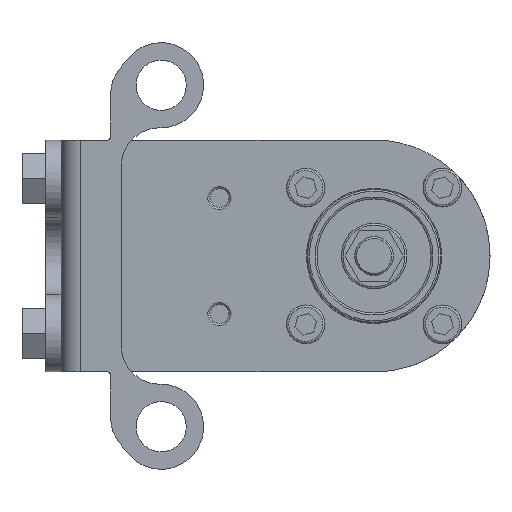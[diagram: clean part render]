
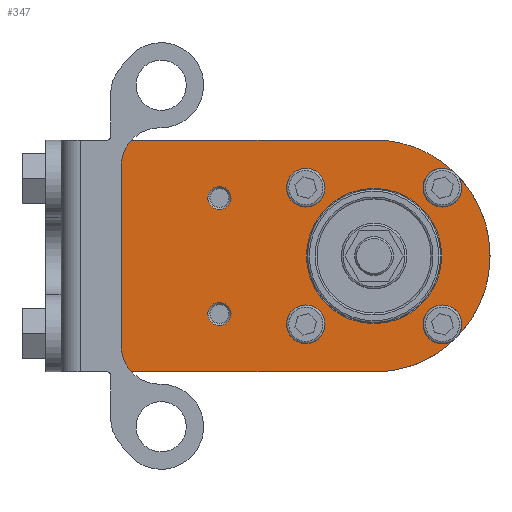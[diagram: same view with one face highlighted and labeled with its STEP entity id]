
A CAD part, front view. The second image highlights one B-rep face of the part: STEP entity #347.
In plain terms, the highlighted planar face has unit normal (0, -1, 0).
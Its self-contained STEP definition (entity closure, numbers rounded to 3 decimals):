
#347 = ADVANCED_FACE( '', ( #709, #710, #711, #712, #713, #714 ), #715, .F. );
#709 = FACE_BOUND( '', #1362, .T. );
#710 = FACE_OUTER_BOUND( '', #1363, .T. );
#711 = FACE_BOUND( '', #1364, .T. );
#712 = FACE_BOUND( '', #1365, .T. );
#713 = FACE_BOUND( '', #1366, .T. );
#714 = FACE_BOUND( '', #1367, .T. );
#715 = PLANE( '', #1368 );
#1362 = EDGE_LOOP( '', ( #2299 ) );
#1363 = EDGE_LOOP( '', ( #2300, #2301, #2302, #2303, #2304, #2305, #2306, #2307 ) );
#1364 = EDGE_LOOP( '', ( #2308 ) );
#1365 = EDGE_LOOP( '', ( #2309 ) );
#1366 = EDGE_LOOP( '', ( #2310 ) );
#1367 = EDGE_LOOP( '', ( #2311 ) );
#1368 = AXIS2_PLACEMENT_3D( '', #2312, #2313, #2314 );
#2299 = ORIENTED_EDGE( '', *, *, #3863, .F. );
#2300 = ORIENTED_EDGE( '', *, *, #3884, .F. );
#2301 = ORIENTED_EDGE( '', *, *, #3867, .F. );
#2302 = ORIENTED_EDGE( '', *, *, #3885, .F. );
#2303 = ORIENTED_EDGE( '', *, *, #3872, .F. );
#2304 = ORIENTED_EDGE( '', *, *, #3886, .F. );
#2305 = ORIENTED_EDGE( '', *, *, #3887, .F. );
#2306 = ORIENTED_EDGE( '', *, *, #3888, .T. );
#2307 = ORIENTED_EDGE( '', *, *, #3889, .F. );
#2308 = ORIENTED_EDGE( '', *, *, #3786, .F. );
#2309 = ORIENTED_EDGE( '', *, *, #3789, .F. );
#2310 = ORIENTED_EDGE( '', *, *, #3793, .F. );
#2311 = ORIENTED_EDGE( '', *, *, #3890, .T. );
#2312 = CARTESIAN_POINT( '', ( 85., 76., 0. ) );
#2313 = DIRECTION( '', ( 0., 1., 0. ) );
#2314 = DIRECTION( '', ( 0., 0., 1. ) );
#3786 = EDGE_CURVE( '', #4379, #4379, #4380, .F. );
#3789 = EDGE_CURVE( '', #4385, #4385, #4386, .T. );
#3793 = EDGE_CURVE( '', #4393, #4393, #4394, .T. );
#3863 = EDGE_CURVE( '', #4508, #4508, #4509, .F. );
#3867 = EDGE_CURVE( '', #4516, #4516, #4517, .F. );
#3872 = EDGE_CURVE( '', #4526, #4526, #4527, .F. );
#3884 = EDGE_CURVE( '', #4516, #4550, #4551, .T. );
#3885 = EDGE_CURVE( '', #4526, #4516, #4552, .T. );
#3886 = EDGE_CURVE( '', #4553, #4526, #4554, .T. );
#3887 = EDGE_CURVE( '', #4555, #4553, #4556, .T. );
#3888 = EDGE_CURVE( '', #4555, #4557, #4558, .T. );
#3889 = EDGE_CURVE( '', #4550, #4557, #4559, .T. );
#3890 = EDGE_CURVE( '', #4560, #4560, #4561, .T. );
#4379 = VERTEX_POINT( '', #5385 );
#4380 = CIRCLE( '', #5386, 5. );
#4385 = VERTEX_POINT( '', #5391 );
#4386 = CIRCLE( '', #5392, 3. );
#4393 = VERTEX_POINT( '', #5399 );
#4394 = CIRCLE( '', #5400, 3. );
#4508 = VERTEX_POINT( '', #5584 );
#4509 = CIRCLE( '', #5585, 5. );
#4516 = VERTEX_POINT( '', #5592 );
#4517 = CIRCLE( '', #5593, 5. );
#4526 = VERTEX_POINT( '', #5602 );
#4527 = CIRCLE( '', #5603, 5. );
#4550 = VERTEX_POINT( '', #5631 );
#4551 = CIRCLE( '', #5632, 30. );
#4552 = CIRCLE( '', #5633, 30. );
#4553 = VERTEX_POINT( '', #5634 );
#4554 = CIRCLE( '', #5635, 30. );
#4555 = VERTEX_POINT( '', #5636 );
#4556 = LINE( '', #5637, #5638 );
#4557 = VERTEX_POINT( '', #5639 );
#4558 = LINE( '', #5640, #5641 );
#4559 = LINE( '', #5642, #5643 );
#4560 = VERTEX_POINT( '', #5644 );
#4561 = CIRCLE( '', #5645, 17.5 );
#5385 = CARTESIAN_POINT( '', ( 67.322, 76., -12.678 ) );
#5386 = AXIS2_PLACEMENT_3D( '', #6668, #6669, #6670 );
#5391 = CARTESIAN_POINT( '', ( 45., 76., -18. ) );
#5392 = AXIS2_PLACEMENT_3D( '', #6677, #6678, #6679 );
#5399 = CARTESIAN_POINT( '', ( 45., 76., 12. ) );
#5400 = AXIS2_PLACEMENT_3D( '', #6689, #6690, #6691 );
#5584 = CARTESIAN_POINT( '', ( 67.322, 76., 22.678 ) );
#5585 = AXIS2_PLACEMENT_3D( '', #6769, #6770, #6771 );
#5592 = CARTESIAN_POINT( '', ( 106.213, 76., -21.213 ) );
#5593 = AXIS2_PLACEMENT_3D( '', #6781, #6782, #6783 );
#5602 = CARTESIAN_POINT( '', ( 106.213, 76., 21.213 ) );
#5603 = AXIS2_PLACEMENT_3D( '', #6796, #6797, #6798 );
#5631 = CARTESIAN_POINT( '', ( 85., 76., -30. ) );
#5632 = AXIS2_PLACEMENT_3D( '', #6822, #6823, #6824 );
#5633 = AXIS2_PLACEMENT_3D( '', #6825, #6826, #6827 );
#5634 = CARTESIAN_POINT( '', ( 85., 76., 30. ) );
#5635 = AXIS2_PLACEMENT_3D( '', #6828, #6829, #6830 );
#5636 = CARTESIAN_POINT( '', ( 5., 76., 30. ) );
#5637 = CARTESIAN_POINT( '', ( 5., 76., 30. ) );
#5638 = VECTOR( '', #6831, 1000. );
#5639 = CARTESIAN_POINT( '', ( 5., 76., -30. ) );
#5640 = CARTESIAN_POINT( '', ( 5., 76., 30. ) );
#5641 = VECTOR( '', #6832, 1000. );
#5642 = CARTESIAN_POINT( '', ( 85., 76., -30. ) );
#5643 = VECTOR( '', #6833, 1000. );
#5644 = CARTESIAN_POINT( '', ( 102.5, 76., 0. ) );
#5645 = AXIS2_PLACEMENT_3D( '', #6834, #6835, #6836 );
#6668 = CARTESIAN_POINT( '', ( 67.322, 76., -17.678 ) );
#6669 = DIRECTION( '', ( 0., 1., 0. ) );
#6670 = DIRECTION( '', ( 0., 0., 1. ) );
#6677 = CARTESIAN_POINT( '', ( 45., 76., -15. ) );
#6678 = DIRECTION( '', ( 0., -1., 0. ) );
#6679 = DIRECTION( '', ( 0., 0., -1. ) );
#6689 = CARTESIAN_POINT( '', ( 45., 76., 15. ) );
#6690 = DIRECTION( '', ( 0., -1., 0. ) );
#6691 = DIRECTION( '', ( 0., 0., -1. ) );
#6769 = CARTESIAN_POINT( '', ( 67.322, 76., 17.678 ) );
#6770 = DIRECTION( '', ( 0., 1., 0. ) );
#6771 = DIRECTION( '', ( 0., 0., 1. ) );
#6781 = CARTESIAN_POINT( '', ( 102.678, 76., -17.678 ) );
#6782 = DIRECTION( '', ( 0., 1., 0. ) );
#6783 = DIRECTION( '', ( 0., 0., 1. ) );
#6796 = CARTESIAN_POINT( '', ( 102.678, 76., 17.678 ) );
#6797 = DIRECTION( '', ( 0., 1., 0. ) );
#6798 = DIRECTION( '', ( 0., 0., 1. ) );
#6822 = CARTESIAN_POINT( '', ( 85., 76., 0. ) );
#6823 = DIRECTION( '', ( 0., 1., 0. ) );
#6824 = DIRECTION( '', ( 1., 0., 0. ) );
#6825 = CARTESIAN_POINT( '', ( 85., 76., 0. ) );
#6826 = DIRECTION( '', ( 0., 1., 0. ) );
#6827 = DIRECTION( '', ( 1., 0., 0. ) );
#6828 = CARTESIAN_POINT( '', ( 85., 76., 0. ) );
#6829 = DIRECTION( '', ( 0., 1., 0. ) );
#6830 = DIRECTION( '', ( 1., 0., 0. ) );
#6831 = DIRECTION( '', ( 1., 0., 0. ) );
#6832 = DIRECTION( '', ( 0., 0., -1. ) );
#6833 = DIRECTION( '', ( -1., 0., 0. ) );
#6834 = CARTESIAN_POINT( '', ( 85., 76., 0. ) );
#6835 = DIRECTION( '', ( 0., 1., 0. ) );
#6836 = DIRECTION( '', ( 1., 0., 0. ) );
